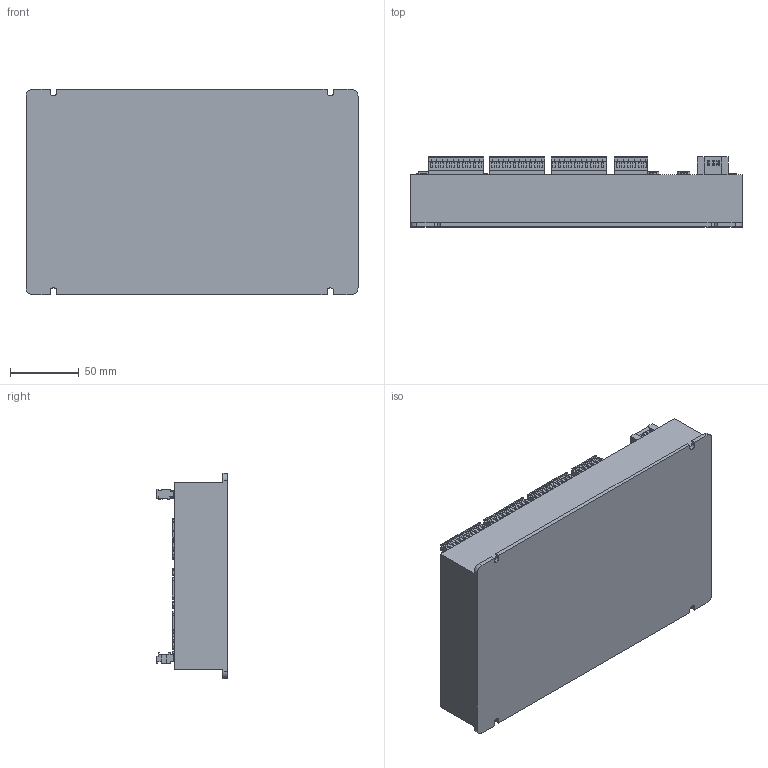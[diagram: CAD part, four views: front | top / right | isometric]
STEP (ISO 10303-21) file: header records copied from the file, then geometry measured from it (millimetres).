
FILE_DESCRIPTION (( 'STEP AP203' ), '1' );
FILE_NAME ('ZMC316BE-3.STEP', '2022-07-07T08:36:47', ( '' ), ( '' ), 'SwSTEP 2.0', 'SolidWorks 2019', '' );
FILE_SCHEMA (( 'CONFIG_CONTROL_DESIGN' ));
Length unit declared in the file: millimetre
Products named in the file (1): ZMC316BE-3
Bounding box: 241 x 51 x 149 mm (x, y, z)
Volume: 1267079.9 mm3; surface area: 129801.3 mm2
Topology: 1 solids, 1 shells, 2187 faces, 5580 edges, 3716 vertices
Faces by surface type: plane 1369, cylinder 818
Entity records: 66709 total; most frequent: DIRECTION 11714, CARTESIAN_POINT 11484, ORIENTED_EDGE 11160, EDGE_CURVE 5580, AXIS2_PLACEMENT_3D 3946, VECTOR 3822, LINE 3822, VERTEX_POINT 3716
